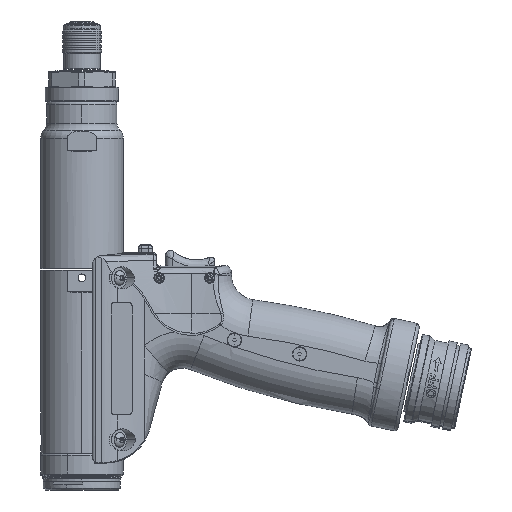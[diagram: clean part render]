
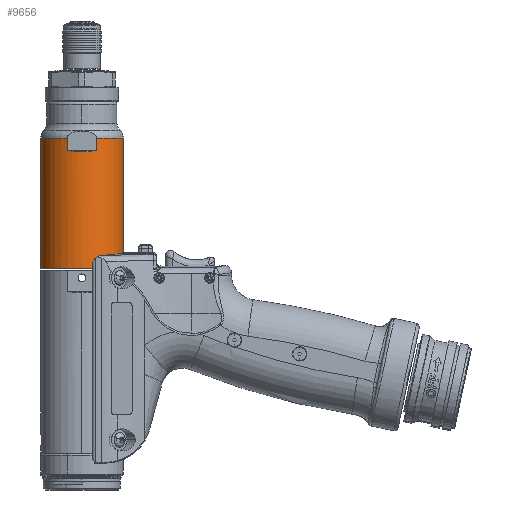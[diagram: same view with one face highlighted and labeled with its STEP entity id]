
A CAD part, left-side view. The second image highlights one B-rep face of the part: STEP entity #9656.
In plain terms, the highlighted cylindrical face has radius 18.669 mm (diameter 37.338 mm), a partial arc.
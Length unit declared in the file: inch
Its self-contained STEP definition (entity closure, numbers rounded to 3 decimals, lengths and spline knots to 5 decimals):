
#1154 = ORIENTED_EDGE ( 'NONE', *, *, #10679, .T. ) ;
#2330 = AXIS2_PLACEMENT_3D ( 'NONE', #11091, #11140, #14989 ) ;
#3515 = EDGE_LOOP ( 'NONE', ( #55274, #49583, #25269, #15854, #37636, #1154, #43595, #29264 ) ) ;
#4835 = VERTEX_POINT ( 'NONE', #50808 ) ;
#5536 = DIRECTION ( 'NONE',  ( 0., 0., -1. ) ) ;
#6303 = CARTESIAN_POINT ( 'NONE',  ( -0.6875, 2.77499, 1.66343 ) ) ;
#7350 = CARTESIAN_POINT ( 'NONE',  ( 0., 3.25005, -0.44857 ) ) ;
#7486 = DIRECTION ( 'NONE',  ( 0., 1., 0. ) ) ;
#7771 = EDGE_CURVE ( 'NONE', #54980, #27429, #22296, .T. ) ;
#7935 = VERTEX_POINT ( 'NONE', #53310 ) ;
#8295 = VECTOR ( 'NONE', #15935, 39.37008 ) ;
#8616 = CARTESIAN_POINT ( 'NONE',  ( -0.6875, 2.25511, 1.66343 ) ) ;
#8627 = EDGE_CURVE ( 'NONE', #27429, #17677, #11081, .T. ) ;
#9212 = EDGE_CURVE ( 'NONE', #7935, #27804, #48160, .T. ) ;
#9614 = EDGE_CURVE ( 'NONE', #27804, #39069, #12074, .T. ) ;
#9656 = ADVANCED_FACE ( 'NONE', ( #12801 ), #29834, .T. ) ;
#10679 = EDGE_CURVE ( 'NONE', #39069, #34683, #12168, .T. ) ;
#11036 = EDGE_CURVE ( 'NONE', #54980, #4835, #25812, .T. ) ;
#11081 = LINE ( 'NONE', #47025, #11592 ) ;
#11091 = CARTESIAN_POINT ( 'NONE',  ( 0., 2.51505, -0.43357 ) ) ;
#11121 = AXIS2_PLACEMENT_3D ( 'NONE', #35405, #34678, #7486 ) ;
#11140 = DIRECTION ( 'NONE',  ( 0., 0., 1. ) ) ;
#11592 = VECTOR ( 'NONE', #46680, 39.37008 ) ;
#12074 =( BOUNDED_CURVE ( )  B_SPLINE_CURVE ( 3, ( #8616, #16892, #20199, #6303 ),
 .UNSPECIFIED., .F., .T. ) 
 B_SPLINE_CURVE_WITH_KNOTS ( ( 4, 4 ),
 ( 2.78011, 3.50307 ),
 .UNSPECIFIED. ) 
 CURVE ( )  GEOMETRIC_REPRESENTATION_ITEM ( )  RATIONAL_B_SPLINE_CURVE ( ( 1., 0.957, 0.957, 1. ) ) 
 REPRESENTATION_ITEM ( '' )  );
#12168 = LINE ( 'NONE', #21671, #13044 ) ;
#12801 = FACE_OUTER_BOUND ( 'NONE', #3515, .T. ) ;
#13044 = VECTOR ( 'NONE', #44129, 39.37008 ) ;
#13172 = CARTESIAN_POINT ( 'NONE',  ( 0., 1.78005, 1.8821 ) ) ;
#13799 = CARTESIAN_POINT ( 'NONE',  ( -0.6875, 2.77499, 1.8821 ) ) ;
#14142 = CARTESIAN_POINT ( 'NONE',  ( -0.6875, 2.77499, 1.66343 ) ) ;
#14989 = DIRECTION ( 'NONE',  ( 0., 1., 0. ) ) ;
#15301 = CIRCLE ( 'NONE', #16133, 0.735 ) ;
#15854 = ORIENTED_EDGE ( 'NONE', *, *, #9212, .T. ) ;
#15935 = DIRECTION ( 'NONE',  ( 0., 0., 1. ) ) ;
#16133 = AXIS2_PLACEMENT_3D ( 'NONE', #31505, #5536, #35924 ) ;
#16892 = CARTESIAN_POINT ( 'NONE',  ( -0.75155, 2.4245, 1.62646 ) ) ;
#17677 = VERTEX_POINT ( 'NONE', #13172 ) ;
#19343 = CARTESIAN_POINT ( 'NONE',  ( 0., 3.25005, -0.43357 ) ) ;
#20199 = CARTESIAN_POINT ( 'NONE',  ( -0.75155, 2.6056, 1.62646 ) ) ;
#21368 = DIRECTION ( 'NONE',  ( 0., 0., -1. ) ) ;
#21504 = DIRECTION ( 'NONE',  ( 0., 0., -1. ) ) ;
#21671 = CARTESIAN_POINT ( 'NONE',  ( -0.6875, 2.77499, -0.44857 ) ) ;
#22296 = CIRCLE ( 'NONE', #2330, 0.735 ) ;
#23696 = VECTOR ( 'NONE', #21504, 39.37008 ) ;
#25269 = ORIENTED_EDGE ( 'NONE', *, *, #50716, .T. ) ;
#25278 = CARTESIAN_POINT ( 'NONE',  ( -0.6875, 2.25511, -0.44857 ) ) ;
#25812 = LINE ( 'NONE', #7350, #8295 ) ;
#27429 = VERTEX_POINT ( 'NONE', #53411 ) ;
#27804 = VERTEX_POINT ( 'NONE', #34920 ) ;
#29264 = ORIENTED_EDGE ( 'NONE', *, *, #11036, .F. ) ;
#29834 = CYLINDRICAL_SURFACE ( 'NONE', #11121, 0.735 ) ;
#31505 = CARTESIAN_POINT ( 'NONE',  ( 0., 2.51505, 1.8821 ) ) ;
#34302 = CIRCLE ( 'NONE', #38091, 0.735 ) ;
#34678 = DIRECTION ( 'NONE',  ( 0., 0., 1. ) ) ;
#34683 = VERTEX_POINT ( 'NONE', #13799 ) ;
#34920 = CARTESIAN_POINT ( 'NONE',  ( -0.6875, 2.25511, 1.66343 ) ) ;
#35405 = CARTESIAN_POINT ( 'NONE',  ( 0., 2.51505, -0.44857 ) ) ;
#35924 = DIRECTION ( 'NONE',  ( 0., -1., 0. ) ) ;
#37636 = ORIENTED_EDGE ( 'NONE', *, *, #9614, .T. ) ;
#38091 = AXIS2_PLACEMENT_3D ( 'NONE', #47518, #21368, #51929 ) ;
#39069 = VERTEX_POINT ( 'NONE', #14142 ) ;
#43595 = ORIENTED_EDGE ( 'NONE', *, *, #49708, .T. ) ;
#44129 = DIRECTION ( 'NONE',  ( 0., 0., 1. ) ) ;
#46680 = DIRECTION ( 'NONE',  ( 0., 0., 1. ) ) ;
#47025 = CARTESIAN_POINT ( 'NONE',  ( 0., 1.78005, -0.44857 ) ) ;
#47518 = CARTESIAN_POINT ( 'NONE',  ( 0., 2.51505, 1.8821 ) ) ;
#48160 = LINE ( 'NONE', #25278, #23696 ) ;
#49583 = ORIENTED_EDGE ( 'NONE', *, *, #8627, .T. ) ;
#49708 = EDGE_CURVE ( 'NONE', #34683, #4835, #15301, .T. ) ;
#50716 = EDGE_CURVE ( 'NONE', #17677, #7935, #34302, .T. ) ;
#50808 = CARTESIAN_POINT ( 'NONE',  ( 0., 3.25005, 1.8821 ) ) ;
#51929 = DIRECTION ( 'NONE',  ( 0., -1., 0. ) ) ;
#53310 = CARTESIAN_POINT ( 'NONE',  ( -0.6875, 2.25511, 1.8821 ) ) ;
#53411 = CARTESIAN_POINT ( 'NONE',  ( 0., 1.78005, -0.43357 ) ) ;
#54980 = VERTEX_POINT ( 'NONE', #19343 ) ;
#55274 = ORIENTED_EDGE ( 'NONE', *, *, #7771, .T. ) ;
